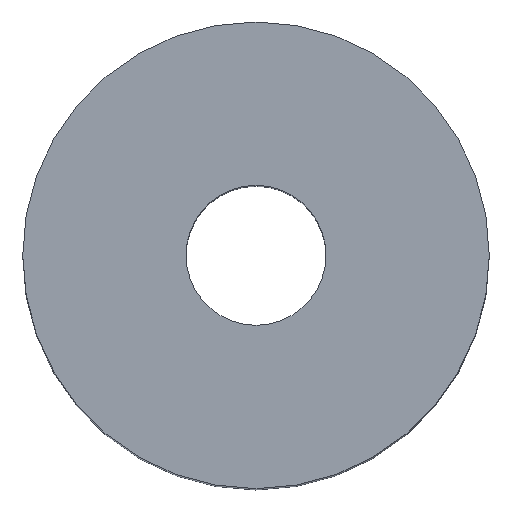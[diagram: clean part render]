
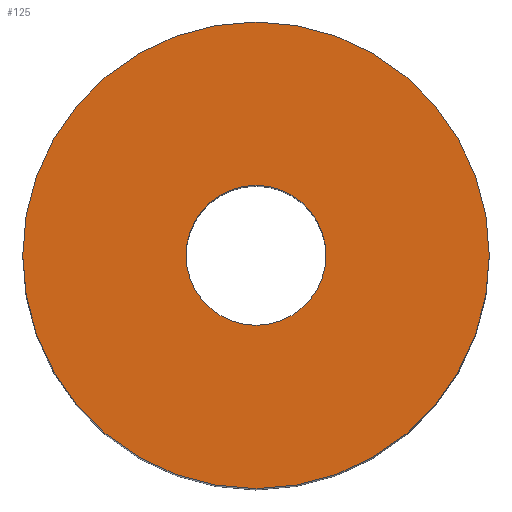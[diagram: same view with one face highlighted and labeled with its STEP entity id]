
A CAD part, top view. The second image highlights one B-rep face of the part: STEP entity #125.
In plain terms, the highlighted planar face has unit normal (0, 0, 1).
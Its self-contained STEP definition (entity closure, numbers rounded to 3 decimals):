
#24 = VERTEX_POINT('',#25);
#25 = CARTESIAN_POINT('',(60.656,-24.905,100.));
#31 = EDGE_CURVE('',#24,#24,#32,.T.);
#32 = CIRCLE('',#33,30.);
#33 = AXIS2_PLACEMENT_3D('',#34,#35,#36);
#34 = CARTESIAN_POINT('',(30.656,-24.905,100.));
#35 = DIRECTION('',(0.,0.,1.));
#36 = DIRECTION('',(1.,0.,0.));
#125 = ADVANCED_FACE('',(#126,#129),#140,.T.);
#126 = FACE_BOUND('',#127,.T.);
#127 = EDGE_LOOP('',(#128));
#128 = ORIENTED_EDGE('',*,*,#31,.T.);
#129 = FACE_BOUND('',#130,.F.);
#130 = EDGE_LOOP('',(#131));
#131 = ORIENTED_EDGE('',*,*,#132,.T.);
#132 = EDGE_CURVE('',#133,#133,#135,.T.);
#133 = VERTEX_POINT('',#134);
#134 = CARTESIAN_POINT('',(39.656,-24.905,100.));
#135 = CIRCLE('',#136,9.);
#136 = AXIS2_PLACEMENT_3D('',#137,#138,#139);
#137 = CARTESIAN_POINT('',(30.656,-24.905,100.));
#138 = DIRECTION('',(0.,0.,1.));
#139 = DIRECTION('',(1.,0.,0.));
#140 = PLANE('',#141);
#141 = AXIS2_PLACEMENT_3D('',#142,#143,#144);
#142 = CARTESIAN_POINT('',(30.656,-24.905,100.));
#143 = DIRECTION('',(0.,0.,1.));
#144 = DIRECTION('',(1.,0.,0.));
